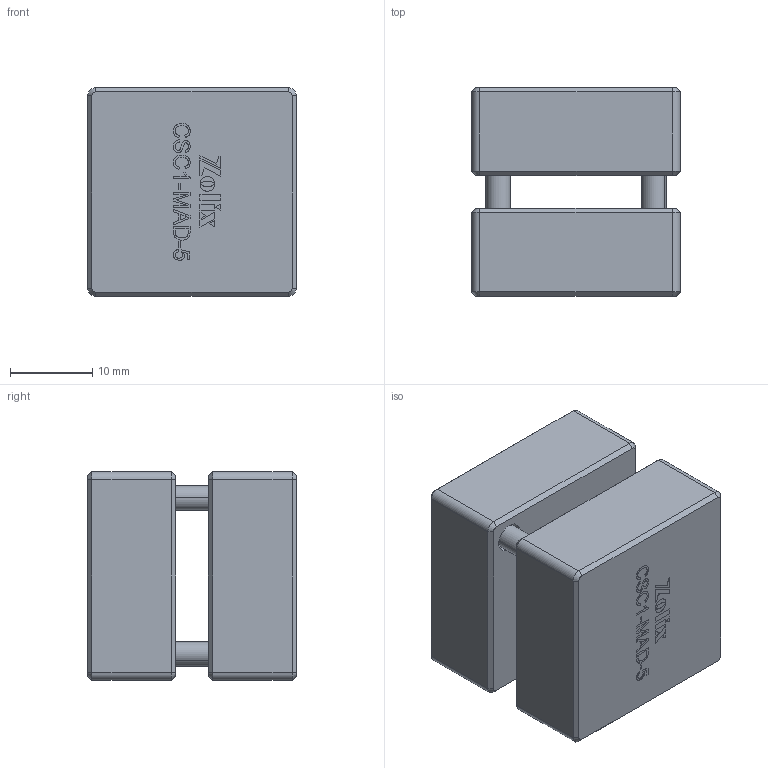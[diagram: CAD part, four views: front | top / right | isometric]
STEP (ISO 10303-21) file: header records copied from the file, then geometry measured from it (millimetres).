
FILE_DESCRIPTION (( 'STEP AP203' ), '1' );
FILE_NAME ('CSC1-MAD-5.STEP', '2024-03-28T03:19:58', ( '' ), ( '' ), 'SwSTEP 2.0', 'SolidWorks 2021', '' );
FILE_SCHEMA (( 'CONFIG_CONTROL_DESIGN' ));
Length unit declared in the file: millimetre
Products named in the file (1): CSC1-MAD-5
Bounding box: 25.4 x 25.4 x 25.4 mm (x, y, z)
Surface area: 4868.4 mm2 (no closed solid volume)
Topology: 0 solids, 6 shells, 254 faces, 1404 edges, 1116 vertices
Faces by surface type: plane 158, bspline 60, cone 24, cylinder 12
Entity records: 18382 total; most frequent: CARTESIAN_POINT 8331, ORIENTED_EDGE 1892, DIRECTION 1646, EDGE_CURVE 1404, VECTOR 1128, LINE 1128, VERTEX_POINT 1116, EDGE_LOOP 304
